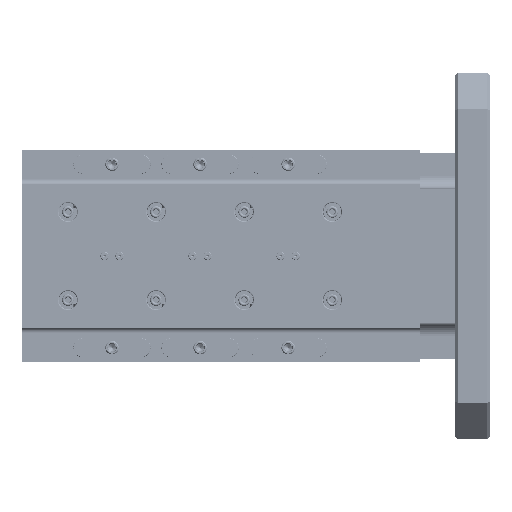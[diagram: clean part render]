
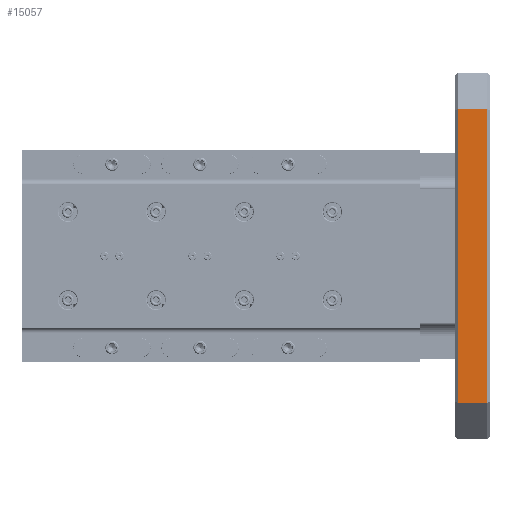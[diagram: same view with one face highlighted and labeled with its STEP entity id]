
A CAD part, left-side view. The second image highlights one B-rep face of the part: STEP entity #15057.
In plain terms, the highlighted planar face has unit normal (-1, 0, 0).
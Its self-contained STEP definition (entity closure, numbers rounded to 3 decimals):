
#860 = VECTOR ( 'NONE', #4928, 1000. ) ;
#1425 = FACE_OUTER_BOUND ( 'NONE', #36667, .T. ) ;
#1785 = VECTOR ( 'NONE', #35757, 1000. ) ;
#1907 = VERTEX_POINT ( 'NONE', #26406 ) ;
#3082 = CARTESIAN_POINT ( 'NONE',  ( -200., 35.1, -160. ) ) ;
#4629 = EDGE_CURVE ( 'NONE', #15303, #5424, #16289, .T. ) ;
#4928 = DIRECTION ( 'NONE',  ( 0., 1., 0. ) ) ;
#5424 = VERTEX_POINT ( 'NONE', #26202 ) ;
#6569 = DIRECTION ( 'NONE',  ( 0., 0., -1. ) ) ;
#6839 = ORIENTED_EDGE ( 'NONE', *, *, #33847, .T. ) ;
#8427 = CARTESIAN_POINT ( 'NONE',  ( -200., 38.1, 160. ) ) ;
#9722 = DIRECTION ( 'NONE',  ( 0., -1., 0. ) ) ;
#11688 = PLANE ( 'NONE',  #38517 ) ;
#15057 = ADVANCED_FACE ( 'NONE', ( #1425 ), #11688, .F. ) ;
#15303 = VERTEX_POINT ( 'NONE', #3082 ) ;
#16277 = VECTOR ( 'NONE', #9722, 1000. ) ;
#16289 = LINE ( 'NONE', #29595, #16277 ) ;
#19969 = EDGE_CURVE ( 'NONE', #5424, #36349, #35123, .T. ) ;
#20463 = VECTOR ( 'NONE', #6569, 1000. ) ;
#23688 = ORIENTED_EDGE ( 'NONE', *, *, #4629, .T. ) ;
#25799 = CARTESIAN_POINT ( 'NONE',  ( -200., 3., 160. ) ) ;
#26002 = LINE ( 'NONE', #34029, #20463 ) ;
#26202 = CARTESIAN_POINT ( 'NONE',  ( -200., 3., -160. ) ) ;
#26406 = CARTESIAN_POINT ( 'NONE',  ( -200., 35.1, 160. ) ) ;
#27434 = EDGE_CURVE ( 'NONE', #36349, #1907, #27667, .T. ) ;
#27667 = LINE ( 'NONE', #8427, #860 ) ;
#28484 = DIRECTION ( 'NONE',  ( 1., 0., 0. ) ) ;
#28970 = CARTESIAN_POINT ( 'NONE',  ( -200., 3., 160. ) ) ;
#29595 = CARTESIAN_POINT ( 'NONE',  ( -200., 38.1, -160. ) ) ;
#29771 = ORIENTED_EDGE ( 'NONE', *, *, #19969, .T. ) ;
#33847 = EDGE_CURVE ( 'NONE', #1907, #15303, #26002, .T. ) ;
#34029 = CARTESIAN_POINT ( 'NONE',  ( -200., 35.1, 200. ) ) ;
#34328 = ORIENTED_EDGE ( 'NONE', *, *, #27434, .T. ) ;
#34848 = CARTESIAN_POINT ( 'NONE',  ( -200., 38.1, 200. ) ) ;
#35064 = DIRECTION ( 'NONE',  ( 0., 0., -1. ) ) ;
#35123 = LINE ( 'NONE', #28970, #1785 ) ;
#35757 = DIRECTION ( 'NONE',  ( 0., 0., 1. ) ) ;
#36349 = VERTEX_POINT ( 'NONE', #25799 ) ;
#36667 = EDGE_LOOP ( 'NONE', ( #23688, #29771, #34328, #6839 ) ) ;
#38517 = AXIS2_PLACEMENT_3D ( 'NONE', #34848, #28484, #35064 ) ;
